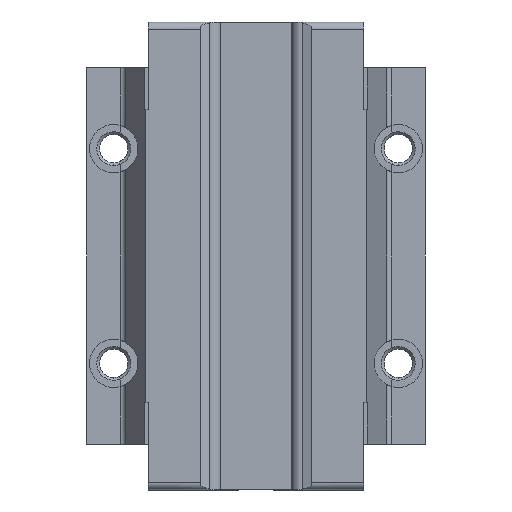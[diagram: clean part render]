
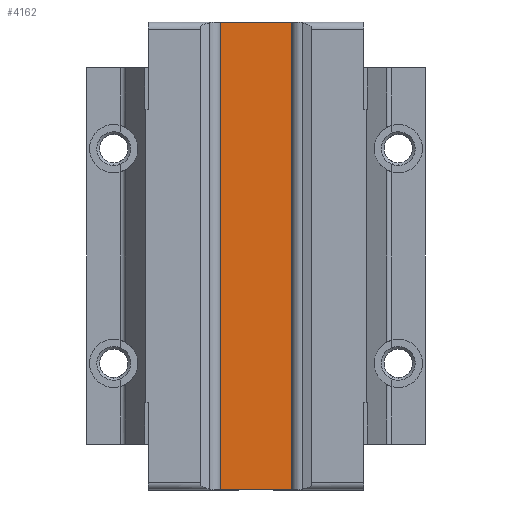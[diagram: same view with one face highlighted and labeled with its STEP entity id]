
A CAD part, front view. The second image highlights one B-rep face of the part: STEP entity #4162.
In plain terms, the highlighted planar face has unit normal (0, -1, 0).
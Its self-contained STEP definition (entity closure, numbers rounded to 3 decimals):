
#2156 = PLANE ( 'NONE',  #15615 ) ;
#2158 = CARTESIAN_POINT ( 'NONE',  ( 7.255, -9.695, -43.6 ) ) ;
#2159 = DIRECTION ( 'NONE',  ( 0., 1., 0. ) ) ;
#2166 = DIRECTION ( 'NONE',  ( -1., 0., 0. ) ) ;
#3252 = VERTEX_POINT ( 'NONE', #7789 ) ;
#3254 = VERTEX_POINT ( 'NONE', #7801 ) ;
#3446 = VERTEX_POINT ( 'NONE', #7697 ) ;
#3463 = VERTEX_POINT ( 'NONE', #7738 ) ;
#4162 = ADVANCED_FACE ( 'NONE', ( #10799 ), #2156, .F. ) ;
#7697 = CARTESIAN_POINT ( 'NONE',  ( 7.255, -9.695, 43.55 ) ) ;
#7738 = CARTESIAN_POINT ( 'NONE',  ( -7.255, -9.695, 43.55 ) ) ;
#7789 = CARTESIAN_POINT ( 'NONE',  ( 7.255, -9.695, -43.55 ) ) ;
#7801 = CARTESIAN_POINT ( 'NONE',  ( -7.255, -9.695, -43.55 ) ) ;
#8488 = DIRECTION ( 'NONE',  ( -1., 0., 0. ) ) ;
#8513 = CARTESIAN_POINT ( 'NONE',  ( 7.255, -9.695, 43.55 ) ) ;
#9069 = DIRECTION ( 'NONE',  ( -1., 0., 0. ) ) ;
#9089 = CARTESIAN_POINT ( 'NONE',  ( -20.1, -9.695, -43.55 ) ) ;
#10257 = EDGE_CURVE ( 'NONE', #3254, #3463, #11035, .T. ) ;
#10259 = EDGE_CURVE ( 'NONE', #3252, #3446, #11037, .T. ) ;
#10466 = EDGE_CURVE ( 'NONE', #3252, #3254, #11310, .T. ) ;
#10799 = FACE_OUTER_BOUND ( 'NONE', #16242, .T. ) ;
#11035 = LINE ( 'NONE', #14862, #11063 ) ;
#11037 = LINE ( 'NONE', #14842, #11040 ) ;
#11040 = VECTOR ( 'NONE', #14854, 1000. ) ;
#11063 = VECTOR ( 'NONE', #14855, 1000. ) ;
#11310 = LINE ( 'NONE', #9089, #11323 ) ;
#11323 = VECTOR ( 'NONE', #9069, 1000. ) ;
#11525 = VECTOR ( 'NONE', #8488, 1000. ) ;
#11543 = LINE ( 'NONE', #8513, #11525 ) ;
#13959 = EDGE_CURVE ( 'NONE', #3446, #3463, #11543, .T. ) ;
#14842 = CARTESIAN_POINT ( 'NONE',  ( 7.255, -9.695, -43.6 ) ) ;
#14854 = DIRECTION ( 'NONE',  ( 0., 0., 1. ) ) ;
#14855 = DIRECTION ( 'NONE',  ( 0., 0., 1. ) ) ;
#14862 = CARTESIAN_POINT ( 'NONE',  ( -7.255, -9.695, -43.6 ) ) ;
#15615 = AXIS2_PLACEMENT_3D ( 'NONE', #2158, #2159, #2166 ) ;
#16242 = EDGE_LOOP ( 'NONE', ( #16829, #16813, #16850, #16845 ) ) ;
#16813 = ORIENTED_EDGE ( 'NONE', *, *, #13959, .T. ) ;
#16829 = ORIENTED_EDGE ( 'NONE', *, *, #10259, .T. ) ;
#16845 = ORIENTED_EDGE ( 'NONE', *, *, #10466, .F. ) ;
#16850 = ORIENTED_EDGE ( 'NONE', *, *, #10257, .F. ) ;
